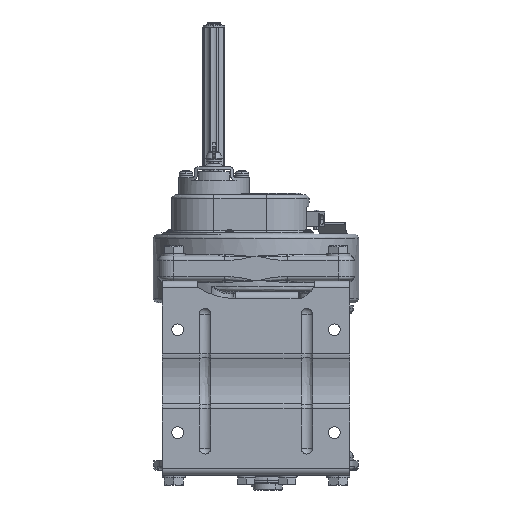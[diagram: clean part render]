
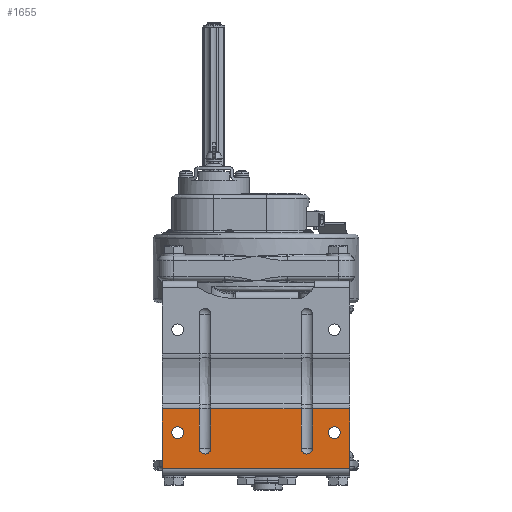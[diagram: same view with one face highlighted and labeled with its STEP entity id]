
A CAD part, front view. The second image highlights one B-rep face of the part: STEP entity #1655.
In plain terms, the highlighted planar face has unit normal (0, -1, 0).
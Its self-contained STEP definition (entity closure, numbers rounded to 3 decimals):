
#1655=ADVANCED_FACE('',(#18036,#18037,#18038),#18035,.T.);
#18035=PLANE('',#38662);
#18036=FACE_OUTER_BOUND('',#38663,.T.);
#18037=FACE_BOUND('',#38664,.T.);
#18038=FACE_BOUND('',#38665,.T.);
#38659=CARTESIAN_POINT('',(11.,-36.383,-223.2));
#38660=DIRECTION('',(0.,-1.,0.));
#38661=DIRECTION('',(0.,0.,1.));
#38662=AXIS2_PLACEMENT_3D('',#38659,#38660,#38661);
#38663=EDGE_LOOP('',(#53532,#53533,#53534,#53535,#53536,#53537,#53538,#53539,#53540,#53541,#53542,#53543));
#38664=EDGE_LOOP('',(#53544,#53545));
#38665=EDGE_LOOP('',(#53546,#53547));
#53532=ORIENTED_EDGE('',*,*,#62885,.T.);
#53533=ORIENTED_EDGE('',*,*,#62889,.F.);
#53534=ORIENTED_EDGE('',*,*,#62671,.T.);
#53535=ORIENTED_EDGE('',*,*,#62890,.T.);
#53536=ORIENTED_EDGE('',*,*,#62884,.T.);
#53537=ORIENTED_EDGE('',*,*,#62862,.F.);
#53538=ORIENTED_EDGE('',*,*,#62656,.F.);
#53539=ORIENTED_EDGE('',*,*,#62861,.T.);
#53540=ORIENTED_EDGE('',*,*,#62883,.T.);
#53541=ORIENTED_EDGE('',*,*,#62891,.F.);
#53542=ORIENTED_EDGE('',*,*,#62892,.F.);
#53543=ORIENTED_EDGE('',*,*,#62893,.T.);
#53544=ORIENTED_EDGE('',*,*,#62894,.F.);
#53545=ORIENTED_EDGE('',*,*,#62895,.F.);
#53546=ORIENTED_EDGE('',*,*,#62896,.F.);
#53547=ORIENTED_EDGE('',*,*,#62897,.F.);
#62656=EDGE_CURVE('',#93625,#93633,#93634,.T.);
#62671=EDGE_CURVE('',#93736,#93728,#93737,.T.);
#62861=EDGE_CURVE('',#93625,#93750,#94974,.T.);
#62862=EDGE_CURVE('',#93633,#93749,#94980,.T.);
#62883=EDGE_CURVE('',#93750,#95113,#95120,.T.);
#62884=EDGE_CURVE('',#93770,#93749,#95126,.T.);
#62885=EDGE_CURVE('',#95132,#93769,#95133,.T.);
#62889=EDGE_CURVE('',#93736,#93769,#95158,.T.);
#62890=EDGE_CURVE('',#93728,#93770,#95164,.T.);
#62891=EDGE_CURVE('',#95170,#95113,#95171,.T.);
#62892=EDGE_CURVE('',#95177,#95170,#95178,.T.);
#62893=EDGE_CURVE('',#95177,#95132,#95184,.T.);
#62894=EDGE_CURVE('',#95190,#95191,#95192,.T.);
#62895=EDGE_CURVE('',#95191,#95190,#95198,.T.);
#62896=EDGE_CURVE('',#95204,#95205,#95206,.T.);
#62897=EDGE_CURVE('',#95205,#95204,#95212,.T.);
#93625=VERTEX_POINT('',#125055);
#93633=VERTEX_POINT('',#125061);
#93634=CIRCLE('',#125065,6.);
#93728=VERTEX_POINT('',#125124);
#93736=VERTEX_POINT('',#125130);
#93737=CIRCLE('',#125134,6.);
#93749=VERTEX_POINT('',#125139);
#93750=VERTEX_POINT('',#125140);
#93769=VERTEX_POINT('',#125153);
#93770=VERTEX_POINT('',#125154);
#94974=LINE('',#126029,#126030);
#94980=LINE('',#126032,#126033);
#95113=VERTEX_POINT('',#126115);
#95120=LINE('',#126120,#126121);
#95126=LINE('',#126123,#126124);
#95132=VERTEX_POINT('',#126126);
#95133=LINE('',#126127,#126128);
#95158=LINE('',#126142,#126143);
#95164=LINE('',#126145,#126146);
#95170=VERTEX_POINT('',#126148);
#95171=LINE('',#126149,#126150);
#95177=VERTEX_POINT('',#126152);
#95178=LINE('',#126153,#126154);
#95184=LINE('',#126156,#126157);
#95190=VERTEX_POINT('',#126159);
#95191=VERTEX_POINT('',#126160);
#95192=CIRCLE('',#126164,6.);
#95198=CIRCLE('',#126168,6.);
#95204=VERTEX_POINT('',#126169);
#95205=VERTEX_POINT('',#126170);
#95206=CIRCLE('',#126174,6.);
#95212=CIRCLE('',#126178,6.);
#125055=CARTESIAN_POINT('',(-153.,-36.383,-196.302));
#125061=CARTESIAN_POINT('',(-141.,-36.383,-196.302));
#125062=CARTESIAN_POINT('',(-147.,-36.383,-196.302));
#125063=DIRECTION('',(0.,-1.,0.));
#125064=DIRECTION('',(1.,0.,0.));
#125065=AXIS2_PLACEMENT_3D('',#125062,#125063,#125064);
#125124=CARTESIAN_POINT('',(-49.,-36.383,-196.302));
#125130=CARTESIAN_POINT('',(-37.,-36.383,-196.302));
#125131=CARTESIAN_POINT('',(-43.,-36.383,-196.302));
#125132=DIRECTION('',(0.,1.,0.));
#125133=DIRECTION('',(1.,0.,0.));
#125134=AXIS2_PLACEMENT_3D('',#125131,#125132,#125133);
#125139=CARTESIAN_POINT('',(-141.,-36.383,-156.096));
#125140=CARTESIAN_POINT('',(-153.,-36.383,-156.096));
#125153=CARTESIAN_POINT('',(-37.,-36.383,-156.096));
#125154=CARTESIAN_POINT('',(-49.,-36.383,-156.096));
#126029=CARTESIAN_POINT('',(-153.,-36.383,-196.302));
#126030=VECTOR('',#126031,40.206);
#126031=DIRECTION('',(0.,0.,1.));
#126032=CARTESIAN_POINT('',(-141.,-36.383,-196.302));
#126033=VECTOR('',#126034,40.206);
#126034=DIRECTION('',(0.,0.,1.));
#126115=CARTESIAN_POINT('',(-191.,-36.383,-156.096));
#126120=CARTESIAN_POINT('',(-153.,-36.383,-156.096));
#126121=VECTOR('',#126122,38.);
#126122=DIRECTION('',(-1.,0.,0.));
#126123=CARTESIAN_POINT('',(-49.,-36.383,-156.096));
#126124=VECTOR('',#126125,92.);
#126125=DIRECTION('',(-1.,0.,0.));
#126126=CARTESIAN_POINT('',(1.,-36.383,-156.096));
#126127=CARTESIAN_POINT('',(1.,-36.383,-156.096));
#126128=VECTOR('',#126129,38.);
#126129=DIRECTION('',(-1.,0.,0.));
#126142=CARTESIAN_POINT('',(-37.,-36.383,-196.302));
#126143=VECTOR('',#126144,40.206);
#126144=DIRECTION('',(0.,0.,1.));
#126145=CARTESIAN_POINT('',(-49.,-36.383,-196.302));
#126146=VECTOR('',#126147,40.206);
#126147=DIRECTION('',(0.,0.,1.));
#126148=CARTESIAN_POINT('',(-191.,-36.383,-217.1));
#126149=CARTESIAN_POINT('',(-191.,-36.383,-217.1));
#126150=VECTOR('',#126151,61.004);
#126151=DIRECTION('',(0.,0.,1.));
#126152=CARTESIAN_POINT('',(1.,-36.383,-217.1));
#126153=CARTESIAN_POINT('',(1.,-36.383,-217.1));
#126154=VECTOR('',#126155,192.);
#126155=DIRECTION('',(-1.,0.,0.));
#126156=CARTESIAN_POINT('',(1.,-36.383,-217.1));
#126157=VECTOR('',#126158,61.004);
#126158=DIRECTION('',(0.,0.,1.));
#126159=CARTESIAN_POINT('',(-15.,-36.383,-186.4));
#126160=CARTESIAN_POINT('',(-15.,-36.383,-174.4));
#126161=CARTESIAN_POINT('',(-15.,-36.383,-180.4));
#126162=DIRECTION('',(0.,-1.,0.));
#126163=DIRECTION('',(0.,0.,1.));
#126164=AXIS2_PLACEMENT_3D('',#126161,#126162,#126163);
#126165=CARTESIAN_POINT('',(-15.,-36.383,-180.4));
#126166=DIRECTION('',(0.,-1.,0.));
#126167=DIRECTION('',(0.,0.,1.));
#126168=AXIS2_PLACEMENT_3D('',#126165,#126166,#126167);
#126169=CARTESIAN_POINT('',(-175.,-36.383,-186.4));
#126170=CARTESIAN_POINT('',(-175.,-36.383,-174.4));
#126171=CARTESIAN_POINT('',(-175.,-36.383,-180.4));
#126172=DIRECTION('',(0.,-1.,0.));
#126173=DIRECTION('',(0.,0.,1.));
#126174=AXIS2_PLACEMENT_3D('',#126171,#126172,#126173);
#126175=CARTESIAN_POINT('',(-175.,-36.383,-180.4));
#126176=DIRECTION('',(0.,-1.,0.));
#126177=DIRECTION('',(0.,0.,1.));
#126178=AXIS2_PLACEMENT_3D('',#126175,#126176,#126177);
